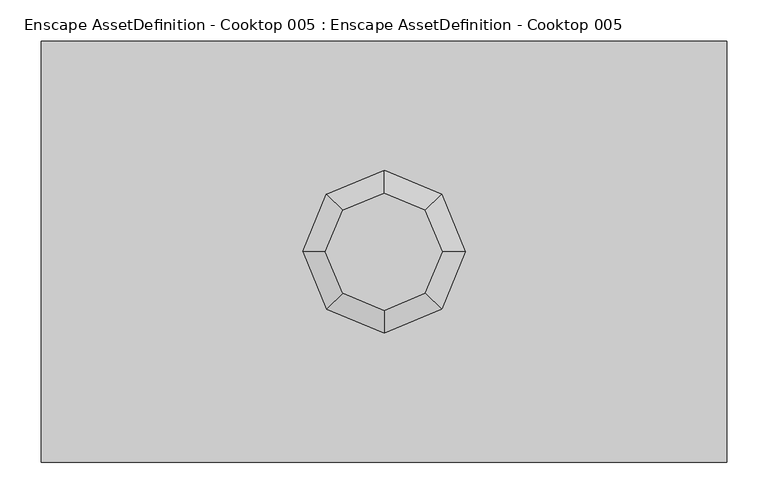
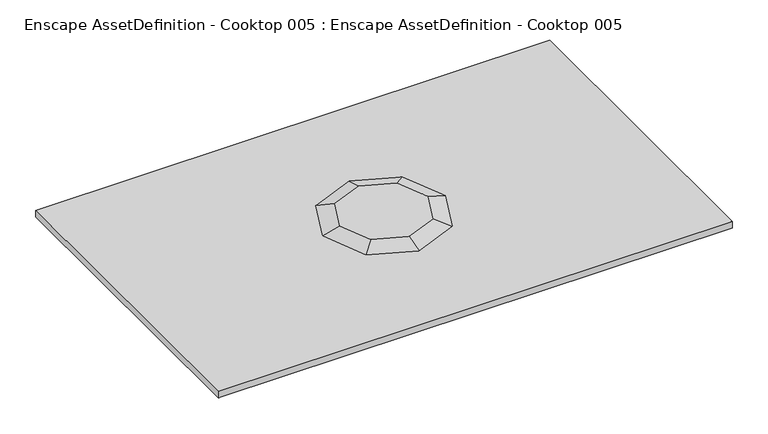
"""IFC4 building model written with IfcOpenShell, lengths in millimetres: geographic element geometry, Enscape AssetDefinition - Cooktop 005 : Enscape AssetDefinition - Cooktop 005."""

from ifc_helpers import new_model, si_unit, origin, place, context, project, spatial, triangles, source, transform, mapped, element, save


def enscape_assetdefinition_cooktop_005_enscape_assetdefinition_37fae546(model_context):
    return source(origin(), model_context, "Body", "Tessellation", [
        triangles([(414.9999959, -254.9999874, 0.0), (414.9999959, 254.9999874, 0.0), (-414.9999959, -254.9999874, 0.0), (-414.9999959, 254.9999874, 0.0), (414.9999959, 254.9999874, 10.9720002), (0.0, 98.6519998, 10.9720002), (414.9999959, -254.9999874, 10.9720002), (69.7579968, 69.7579968, 10.9720002), (50.2360007, 50.2360007, 18.9779999), (0.0, 71.0439966, 18.9779999), (-50.2360007, 50.2360007, 18.9779999), (-69.7579968, 69.7579968, 10.9720002), (-98.6519998, 0.0, 10.9720002), (-71.0439966, 0.0, 18.9779999), (0.0, 0.0, 18.9779999), (71.0439966, 0.0, 18.9779999), (98.6519998, 0.0, 10.9720002), (69.7579968, -69.7579968, 10.9720002), (50.2360007, -50.2360007, 18.9779999), (0.0, -71.0439966, 18.9779999), (-69.7579968, -69.7579968, 10.9720002), (-50.2360007, -50.2360007, 18.9779999), (-414.9999959, -254.9999874, 10.9720002), (-414.9999959, 254.9999874, 10.9720002), (0.0, -98.6519998, 10.9720002)], [[4, 23, 24], [7, 18, 25], [23, 7, 25], [24, 23, 21], [23, 25, 21], [24, 21, 13], [13, 21, 22], [21, 25, 20], [21, 20, 22], [25, 18, 19], [25, 19, 20], [18, 16, 19], [18, 17, 16], [7, 17, 18], [17, 9, 16], [16, 9, 15], [19, 16, 15], [20, 19, 15], [22, 20, 15], [14, 22, 15], [13, 22, 14], [12, 13, 14], [24, 13, 12], [11, 14, 15], [12, 14, 11], [10, 11, 15], [9, 10, 15], [17, 8, 9], [7, 8, 17], [8, 10, 9], [24, 12, 6], [6, 12, 11], [8, 6, 10], [6, 11, 10], [5, 24, 6], [7, 5, 8], [5, 6, 8], [1, 5, 7], [2, 4, 24], [1, 2, 5], [2, 24, 5], [4, 3, 23], [3, 1, 7], [3, 4, 2], [3, 7, 23], [3, 2, 1]]),
    ])


if __name__ == "__main__":
    model = new_model("IFC4")
    model_context = context("Model", 3, world=origin())
    ifc_project = project(units=[si_unit("LENGTHUNIT", "METRE", prefix="MILLI")], contexts=[model_context])
    site = spatial("IfcSite", under=ifc_project)
    building = spatial("IfcBuilding", under=site)
    placement = place(None, origin())
    enscape_assetdefinition_cooktop_005_enscape_assetdefinition_shape = enscape_assetdefinition_cooktop_005_enscape_assetdefinition_37fae546(model_context)
    element("IfcGeographicElement", 1, ObjectType="Enscape AssetDefinition - Cooktop 005 : Enscape AssetDefinition - Cooktop 005", at=placement, inside=building, context=model_context, shape_type="MappedRepresentation", body=[
        mapped(enscape_assetdefinition_cooktop_005_enscape_assetdefinition_shape, transform((0.0, 0.0, 0.0), x_axis=(1.0, 0.0, 0.0), y_axis=(0.0, 1.0, 0.0), z_axis=(0.0, 0.0, 1.0))),
    ])
    save(model, "model.ifc")
